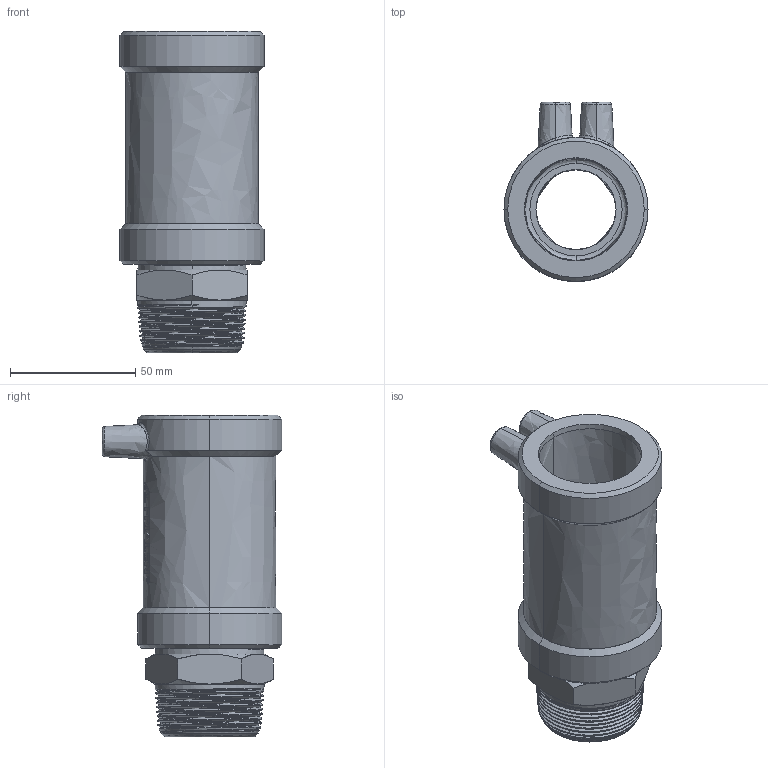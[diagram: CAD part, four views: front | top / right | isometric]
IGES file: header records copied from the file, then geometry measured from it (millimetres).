
Start section:  PTC IGES file: mun_d40_1_1-4_01.igs
Global section: file name: mun_d40_1_1-4_01.igs; native system: Pro/ENGINEER by Parametric Technology Corporation; preprocessor: 2011490; author: mtunjic; organization: Unknown; date: 20130823.151919; units: millimetre
Bounding box: 57.5 x 71.55 x 128.3 mm (x, y, z)
Surface area: 43527.8 mm2 (no closed solid volume)
Topology: 0 solids, 0 shells, 254 faces, 1288 edges, 1288 vertices
Faces by surface type: bspline 254
